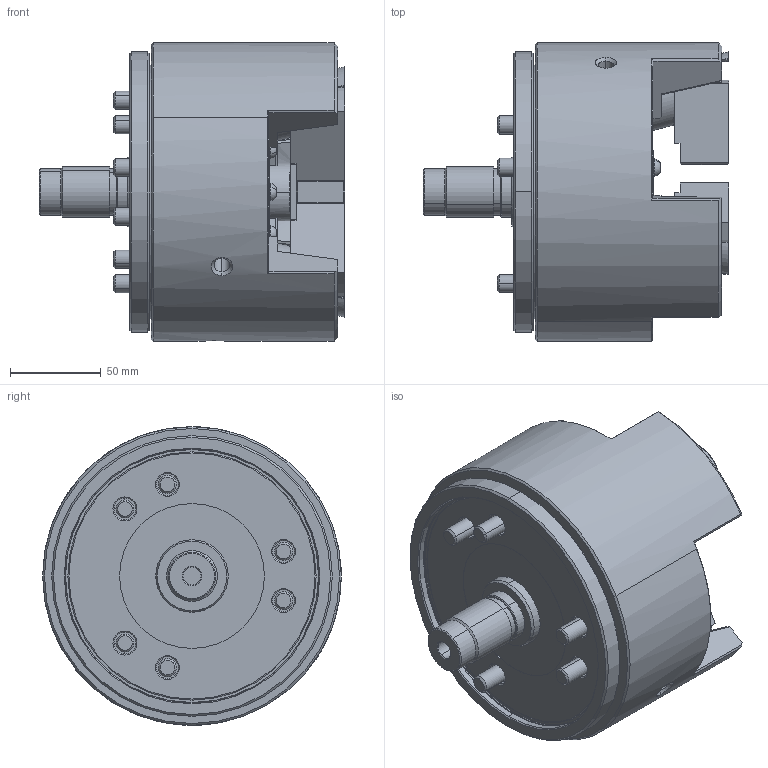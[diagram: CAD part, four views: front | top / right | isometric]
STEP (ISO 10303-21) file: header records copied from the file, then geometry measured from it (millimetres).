
FILE_DESCRIPTION (( 'STEP AP203' ), '1' );
FILE_NAME ('PU206_CL.STEP', '2025-02-14T01:13:26', ( '' ), ( '' ), 'SwSTEP 2.0', 'SolidWorks 2022', '' );
FILE_SCHEMA (( 'CONFIG_CONTROL_DESIGN' ));
Length unit declared in the file: millimetre
Products named in the file (7): 0033105010; 0030110025; 61P332352; PU206_CL; Part1^61P224612_dummy; 0030110070; 61P427269
Assembly tree (17 placements, depth 2):
  PU206_CL
    61P332352  x3
    61P427269
    0033105010  x3
    0030110025  x3
    0030110070  x6
    Part1^61P224612_dummy
Bounding box: 169 x 165 x 165 mm (x, y, z)
Volume: 1796802.8 mm3; surface area: 198858.1 mm2
Topology: 17 solids, 17 shells, 1072 faces, 2738 edges, 1750 vertices
Faces by surface type: plane 470, cone 220, cylinder 194, bspline 165, torus 21, sphere 2
Entity records: 36952 total; most frequent: CARTESIAN_POINT 16691, ORIENTED_EDGE 4360, DIRECTION 3380, EDGE_CURVE 2180, VERTEX_POINT 1411, AXIS2_PLACEMENT_3D 1141, VECTOR 1098, LINE 1098
